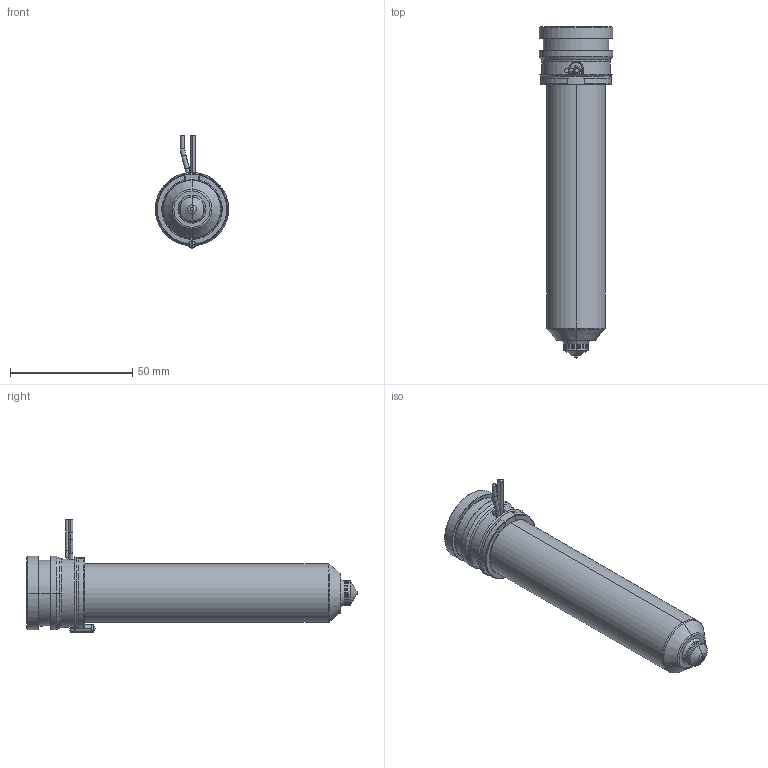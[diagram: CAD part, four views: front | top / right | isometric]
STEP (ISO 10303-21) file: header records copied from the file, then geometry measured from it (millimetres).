
FILE_DESCRIPTION((''),'2;1');
FILE_NAME('MPN-10-29-VSA10-116-A','2026-02-05T12:44:42',('UPTIO'),('Thermoplay S.p.A.'),'CREO PARAMETRIC BY PTC INC, 2023494','CREO PARAMETRIC BY PTC INC, 2023494','');
FILE_SCHEMA(('CONFIG_CONTROL_DESIGN','SHAPE_APPEARANCE_LAYERS_GROUPS'));
Length unit declared in the file: millimetre
Products named in the file (1): MPN-10-29-VSA10-116-A
Bounding box: 30 x 136 x 46 mm (x, y, z)
Volume: 42927.2 mm3; surface area: 43076.8 mm2
Topology: 2 solids, 3 shells, 556 faces, 1451 edges, 894 vertices
Faces by surface type: cylinder 184, plane 142, bspline 77, torus 70, cone 70, sphere 9, extrusion 4
Entity records: 27746 total; most frequent: CARTESIAN_POINT 11332, ORIENTED_EDGE 2890, DIRECTION 2691, EDGE_CURVE 1445, AXIS2_PLACEMENT_3D 1066, VERTEX_POINT 894, CIRCLE 590, EDGE_LOOP 585
